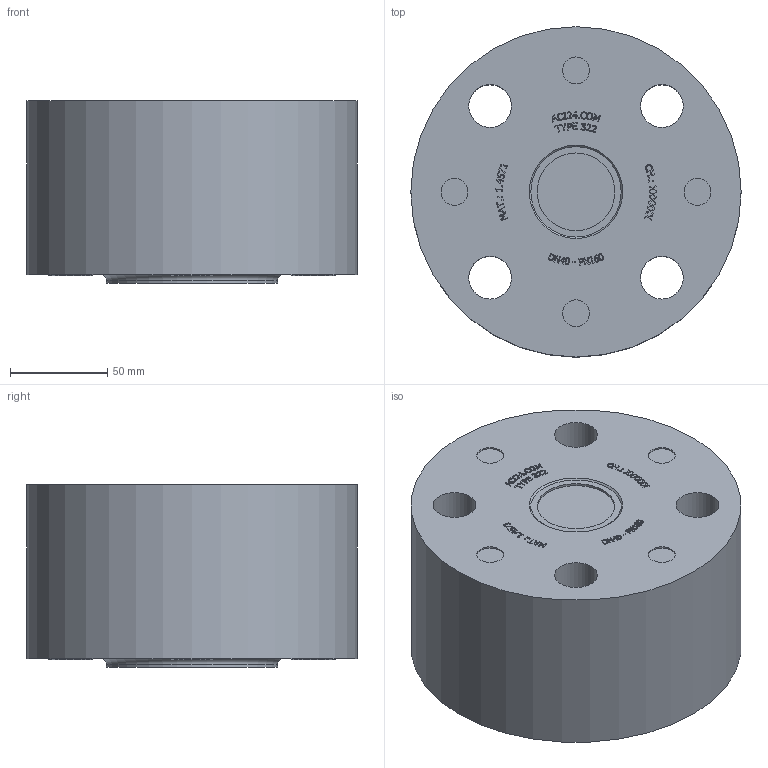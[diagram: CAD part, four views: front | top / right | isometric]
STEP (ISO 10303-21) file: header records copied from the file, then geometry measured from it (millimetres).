
FILE_DESCRIPTION(/* description */ ('ACI TYPE 322 DN 40 PN160'),/* implementation_level */ '2;1');
FILE_NAME(/* name */ 'W:\Konstruktion_ACI\322\ACI-322-40-160.stp',/* time_stamp */ '2020-04-21T11:05:32+02:00',/* author */ ('Götz'),/* organization */ ('ACI Industriearmaturen GmbH info@aci24.com www.aci24.com'),/* preprocessor_version */ 'ST-DEVELOPER v16.1',/* originating_system */ 'Autodesk Inventor 2016',/* authorisation */ 'ACI Industriearmaturen GmbH info@aci24.com www.aci24.com');
FILE_SCHEMA (('CONFIG_CONTROL_DESIGN'));
Length unit declared in the file: centimetre
Products named in the file (1): ACI-322-40-160
Bounding box: 170 x 170 x 94 mm (x, y, z)
Volume: 1914790.3 mm3; surface area: 116953.3 mm2
Topology: 1 solids, 1 shells, 703 faces, 1882 edges, 1258 vertices
Faces by surface type: plane 488, bspline 197, cylinder 12, torus 5, cone 1
Full cylindrical faces by diameter (mm): 13.835 x4, 22 x4, 40 x2, 88 x1, 170 x1
Entity records: 23263 total; most frequent: CARTESIAN_POINT 6365, ORIENTED_EDGE 3706, DIRECTION 2508, EDGE_CURVE 1853, LINE 1424, VECTOR 1424, VERTEX_POINT 1247, EDGE_LOOP 806
